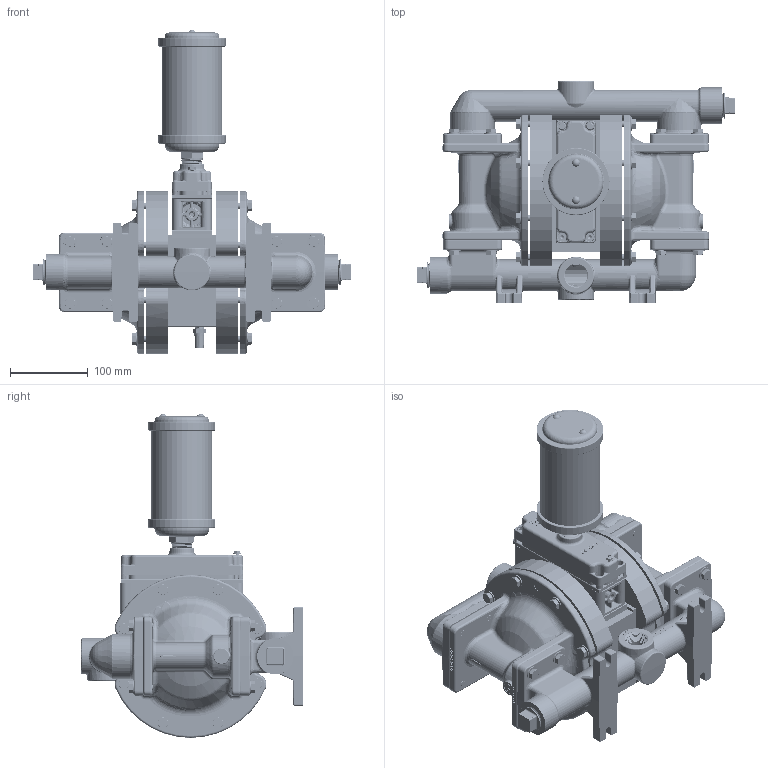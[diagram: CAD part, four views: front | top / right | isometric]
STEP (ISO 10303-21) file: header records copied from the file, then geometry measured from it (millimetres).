
FILE_DESCRIPTION((''),'2;1');
FILE_NAME('PS220_ALUM_TOP_SW0002','2019-08-20T08:26:14',('10013162'),(''),'CREO PARAMETRIC BY PTC INC, 2018500','CREO PARAMETRIC BY PTC INC, 2018500','');
FILE_SCHEMA(('CONFIG_CONTROL_DESIGN'));
Length unit declared in the file: inch
Products named in the file (1): PS220_ALUM_TOP_SW0002
Bounding box: 408.08 x 285.75 x 416.86 mm (x, y, z)
Volume: 5823029.1 mm3; surface area: 903631.9 mm2
Topology: 6 solids, 8 shells, 10332 faces, 27501 edges, 17621 vertices
Faces by surface type: plane 7030, cylinder 1307, bspline 791, cone 653, torus 383, sphere 168
Entity records: 389323 total; most frequent: CARTESIAN_POINT 137993, ORIENTED_EDGE 54966, DIRECTION 47785, EDGE_CURVE 27483, VECTOR 20243, LINE 20243, VERTEX_POINT 17619, AXIS2_PLACEMENT_3D 13771
